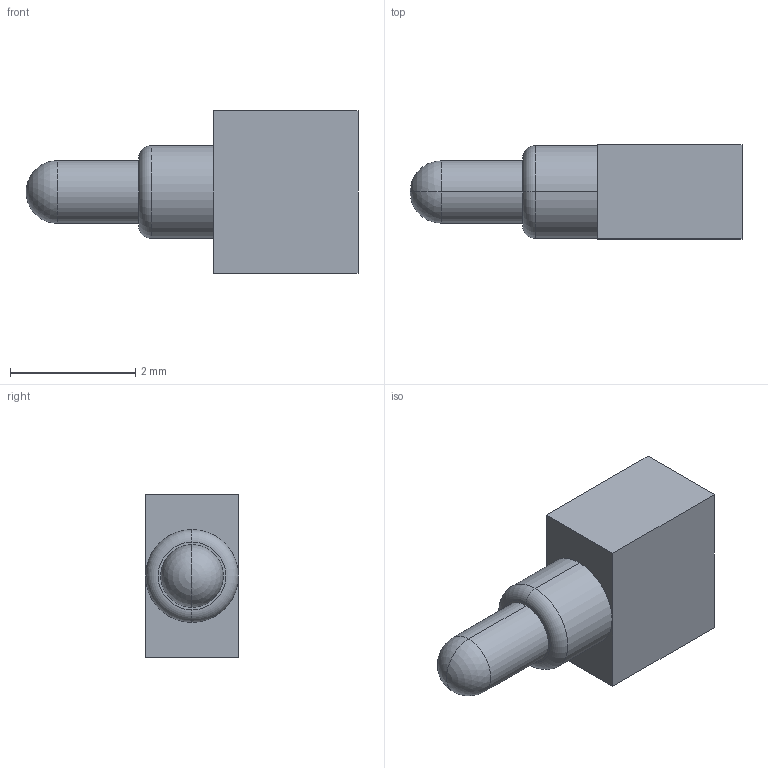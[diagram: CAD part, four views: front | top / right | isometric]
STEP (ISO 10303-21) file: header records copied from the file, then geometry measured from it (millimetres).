
FILE_DESCRIPTION((''),'2;1');
FILE_NAME('NC4425-01PA','2022-05-25T10:44:25',('USER'),(''),'CREO PARAMETRIC BY PTC INC, 2018400','CREO PARAMETRIC BY PTC INC, 2018400','');
FILE_SCHEMA(('CONFIG_CONTROL_DESIGN'));
Length unit declared in the file: millimetre
Products named in the file (1): NC4425-01PA
Bounding box: 5.3 x 1.5 x 2.6 mm (x, y, z)
Volume: 12.3 mm3; surface area: 36.7 mm2
Topology: 1 solids, 1 shells, 15 faces, 32 edges, 19 vertices
Faces by surface type: plane 7, cylinder 4, torus 2, sphere 2
Entity records: 432 total; most frequent: DIRECTION 74, CARTESIAN_POINT 64, ORIENTED_EDGE 60, EDGE_CURVE 30, AXIS2_PLACEMENT_3D 29, VERTEX_POINT 19, EDGE_LOOP 17, VECTOR 16
